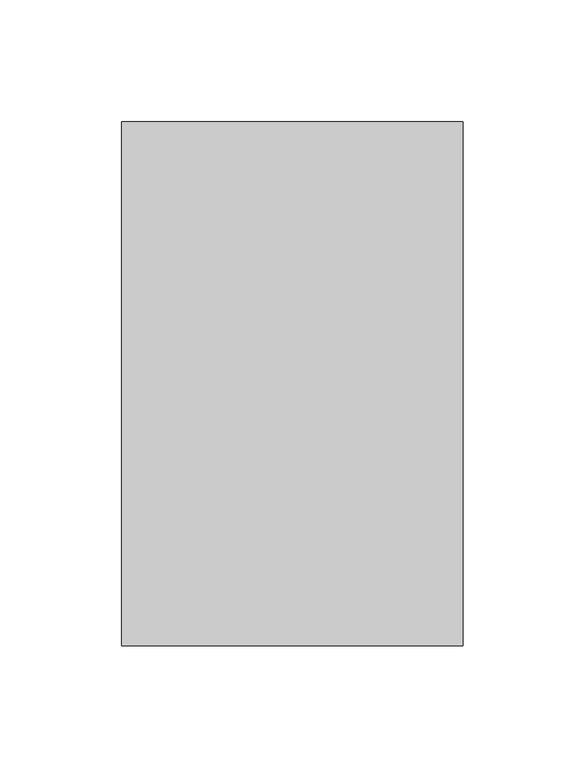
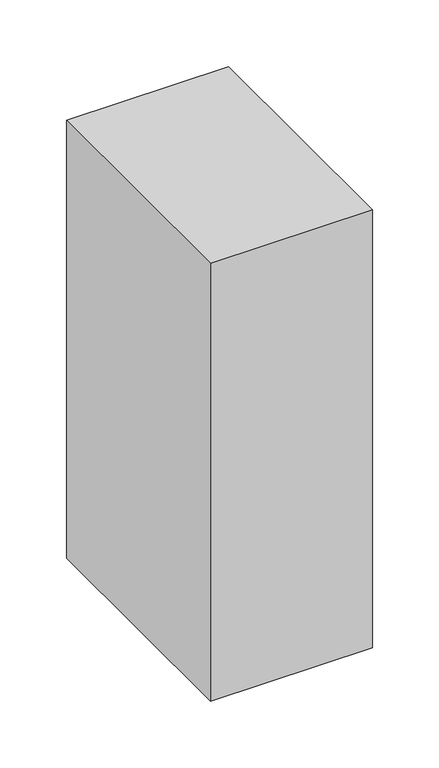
"""IFC4 building model written with IfcOpenShell, lengths in millimetres: proxy geometry."""

from ifc_helpers import new_model, si_unit, frame, origin, place, context, project, spatial, polyline, outline, extrude, source, transform, mapped, element, save


def structural_framing_451fe4bc(model_context):
    return source(origin(), model_context, "Body", "SweptSolid", [
        extrude(outline(polyline([(70.0, -107.5), (-70.0, -107.5), (-70.0, 107.5), (70.0, 107.5), (70.0, -107.5)])), frame((0.0, 0.0, -400.0), z_axis=(0.0, 0.0, 1.0), x_axis=(1.0, 0.0, 0.0)), (0.0, 0.0, 1.0), 400.0),
    ])


if __name__ == "__main__":
    model = new_model("IFC4")
    model_context = context("Model", 3, world=origin())
    ifc_project = project(units=[si_unit("LENGTHUNIT", "METRE", prefix="MILLI")], contexts=[model_context])
    site = spatial("IfcSite", under=ifc_project)
    building = spatial("IfcBuilding", under=site)
    placement = place(None, origin())
    structural_framing_shape = structural_framing_451fe4bc(model_context)
    element("IfcBuildingElementProxy", 1, Name="Structural Framing", at=placement, inside=building, context=model_context, shape_type="MappedRepresentation", body=[
        mapped(structural_framing_shape, transform((0.0, 0.0, 0.0), x_axis=(1.0, 0.0, 0.0), y_axis=(0.0, 1.0, 0.0), z_axis=(0.0, 0.0, 1.0))),
    ])
    save(model, "model.ifc")
